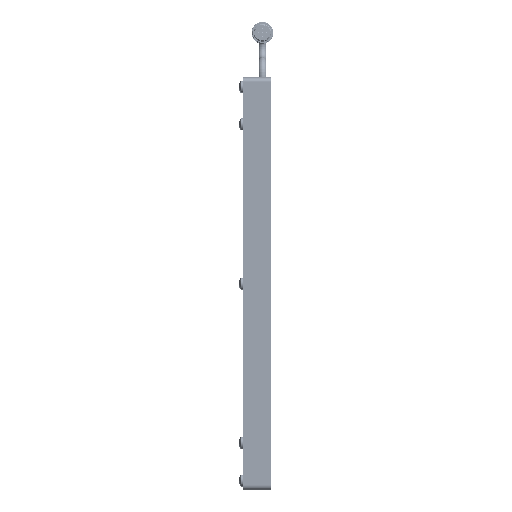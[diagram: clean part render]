
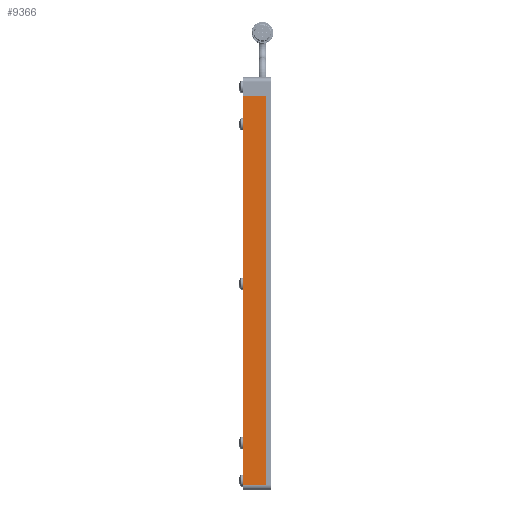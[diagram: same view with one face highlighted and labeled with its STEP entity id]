
A CAD part, left-side view. The second image highlights one B-rep face of the part: STEP entity #9366.
In plain terms, the highlighted planar face has unit normal (-1, 0, 0) as drawn and (0, 0, -1) by its records, which use the part's own axes.
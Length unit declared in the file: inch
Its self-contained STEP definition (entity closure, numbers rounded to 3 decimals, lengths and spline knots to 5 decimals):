
#806 = CARTESIAN_POINT ( 'NONE',  ( -5., 0.3125, -0.25 ) ) ;
#1462 = DIRECTION ( 'NONE',  ( -1., 0., 0. ) ) ;
#1646 = VERTEX_POINT ( 'NONE', #11778 ) ;
#2377 = DIRECTION ( 'NONE',  ( -1., 0., 0. ) ) ;
#2718 = VECTOR ( 'NONE', #2377, 39.37008 ) ;
#2911 = FACE_OUTER_BOUND ( 'NONE', #8981, .T. ) ;
#2945 = EDGE_CURVE ( 'NONE', #1646, #18081, #5826, .T. ) ;
#3380 = ORIENTED_EDGE ( 'NONE', *, *, #19337, .T. ) ;
#5826 = LINE ( 'NONE', #20548, #18800 ) ;
#7217 = ORIENTED_EDGE ( 'NONE', *, *, #2945, .T. ) ;
#8981 = EDGE_LOOP ( 'NONE', ( #8987, #7217, #20217, #3380 ) ) ;
#8987 = ORIENTED_EDGE ( 'NONE', *, *, #15280, .F. ) ;
#9252 = CARTESIAN_POINT ( 'NONE',  ( -5.5, 0.3125, -0.25 ) ) ;
#9366 = ADVANCED_FACE ( 'NONE', ( #2911 ), #17270, .F. ) ;
#9369 = LINE ( 'NONE', #17376, #10557 ) ;
#9859 = CARTESIAN_POINT ( 'NONE',  ( -5., -0.3125, -0.25 ) ) ;
#10300 = EDGE_CURVE ( 'NONE', #18081, #10812, #16630, .T. ) ;
#10557 = VECTOR ( 'NONE', #1462, 39.37008 ) ;
#10812 = VERTEX_POINT ( 'NONE', #13803 ) ;
#11120 = DIRECTION ( 'NONE',  ( 0., 0., 1. ) ) ;
#11778 = CARTESIAN_POINT ( 'NONE',  ( 5.375, 0.3125, -0.25 ) ) ;
#12590 = DIRECTION ( 'NONE',  ( 1., 0., 0. ) ) ;
#12790 = DIRECTION ( 'NONE',  ( 0., 1., 0. ) ) ;
#13205 = CARTESIAN_POINT ( 'NONE',  ( -5.5, -0.3125, -0.25 ) ) ;
#13673 = VECTOR ( 'NONE', #12790, 39.37008 ) ;
#13803 = CARTESIAN_POINT ( 'NONE',  ( -5., -0.3125, -0.25 ) ) ;
#15280 = EDGE_CURVE ( 'NONE', #1646, #16402, #9369, .T. ) ;
#15455 = CARTESIAN_POINT ( 'NONE',  ( 5.375, -0.3125, -0.25 ) ) ;
#15551 = DIRECTION ( 'NONE',  ( 0., -1., 0. ) ) ;
#16402 = VERTEX_POINT ( 'NONE', #806 ) ;
#16630 = LINE ( 'NONE', #13205, #2718 ) ;
#16956 = AXIS2_PLACEMENT_3D ( 'NONE', #9252, #11120, #12590 ) ;
#17270 = PLANE ( 'NONE',  #16956 ) ;
#17376 = CARTESIAN_POINT ( 'NONE',  ( -5.5, 0.3125, -0.25 ) ) ;
#18081 = VERTEX_POINT ( 'NONE', #15455 ) ;
#18800 = VECTOR ( 'NONE', #15551, 39.37008 ) ;
#19332 = LINE ( 'NONE', #9859, #13673 ) ;
#19337 = EDGE_CURVE ( 'NONE', #10812, #16402, #19332, .T. ) ;
#20217 = ORIENTED_EDGE ( 'NONE', *, *, #10300, .T. ) ;
#20548 = CARTESIAN_POINT ( 'NONE',  ( 5.375, 0.3125, -0.25 ) ) ;
